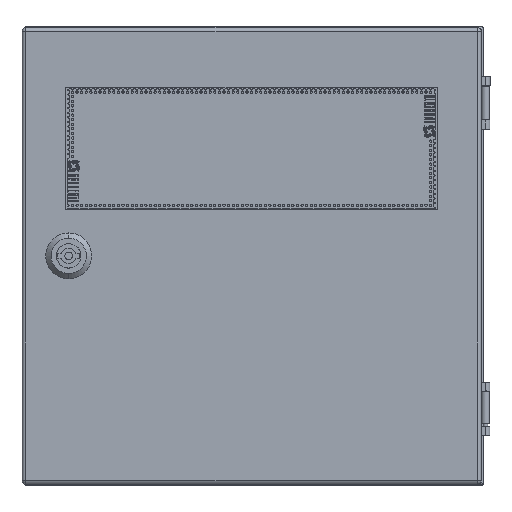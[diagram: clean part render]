
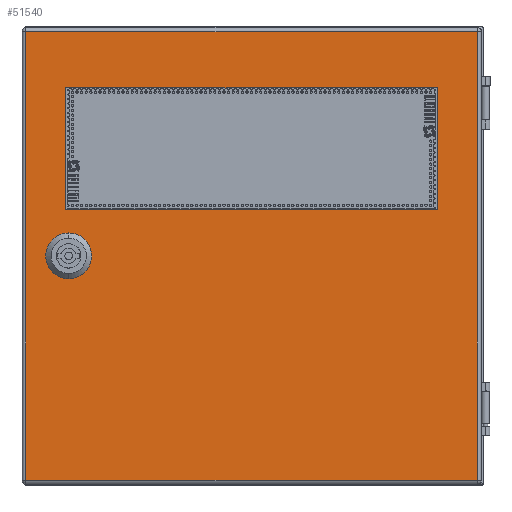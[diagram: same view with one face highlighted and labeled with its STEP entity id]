
A CAD part, top view. The second image highlights one B-rep face of the part: STEP entity #51540.
In plain terms, the highlighted planar face has unit normal (0, 0, 1).
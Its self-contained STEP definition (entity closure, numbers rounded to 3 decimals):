
#587 = ORIENTED_EDGE ( 'NONE', *, *, #27120, .T. ) ;
#588 = ORIENTED_EDGE ( 'NONE', *, *, #27124, .T. ) ;
#589 = ORIENTED_EDGE ( 'NONE', *, *, #27121, .T. ) ;
#590 = ORIENTED_EDGE ( 'NONE', *, *, #27122, .T. ) ;
#591 = ORIENTED_EDGE ( 'NONE', *, *, #27123, .T. ) ;
#592 = ORIENTED_EDGE ( 'NONE', *, *, #27125, .T. ) ;
#593 = ORIENTED_EDGE ( 'NONE', *, *, #27126, .T. ) ;
#594 = ORIENTED_EDGE ( 'NONE', *, *, #27127, .T. ) ;
#595 = ORIENTED_EDGE ( 'NONE', *, *, #27128, .T. ) ;
#596 = ORIENTED_EDGE ( 'NONE', *, *, #27132, .T. ) ;
#597 = ORIENTED_EDGE ( 'NONE', *, *, #27129, .T. ) ;
#598 = ORIENTED_EDGE ( 'NONE', *, *, #27130, .T. ) ;
#599 = ORIENTED_EDGE ( 'NONE', *, *, #27131, .F. ) ;
#600 = ORIENTED_EDGE ( 'NONE', *, *, #27135, .F. ) ;
#601 = ORIENTED_EDGE ( 'NONE', *, *, #27133, .F. ) ;
#603 = ORIENTED_EDGE ( 'NONE', *, *, #27134, .F. ) ;
#2718 = CARTESIAN_POINT ( 'NONE',  ( -119.5, 0., 14. ) ) ;
#2734 = LINE ( 'NONE', #2735, #66574 ) ;
#2735 = CARTESIAN_POINT ( 'NONE',  ( -150., 146.6, 14. ) ) ;
#2736 = DIRECTION ( 'NONE',  ( -1., 0., 0. ) ) ;
#2737 = LINE ( 'NONE', #2738, #66573 ) ;
#2738 = CARTESIAN_POINT ( 'NONE',  ( 147.6, 149., 14. ) ) ;
#2739 = DIRECTION ( 'NONE',  ( 0., 1., 0. ) ) ;
#2740 = LINE ( 'NONE', #2741, #66572 ) ;
#2741 = CARTESIAN_POINT ( 'NONE',  ( -147.6, -149., 14. ) ) ;
#2742 = DIRECTION ( 'NONE',  ( 0., -1., 0. ) ) ;
#2743 = LINE ( 'NONE', #2744, #66569 ) ;
#2744 = CARTESIAN_POINT ( 'NONE',  ( -129.6, 5.499, 14. ) ) ;
#2745 = DIRECTION ( 'NONE',  ( 0., 1., 0. ) ) ;
#2746 = LINE ( 'NONE', #2747, #66565 ) ;
#2747 = CARTESIAN_POINT ( 'NONE',  ( 150., -146.6, 14. ) ) ;
#2748 = DIRECTION ( 'NONE',  ( 1., 0., 0. ) ) ;
#2749 = DIRECTION ( 'NONE',  ( 0., 0., -1. ) ) ;
#2750 = DIRECTION ( 'NONE',  ( -1., 0., 0. ) ) ;
#2751 = CARTESIAN_POINT ( 'NONE',  ( -119.5, 0., 14. ) ) ;
#2752 = LINE ( 'NONE', #2753, #66564 ) ;
#2753 = CARTESIAN_POINT ( 'NONE',  ( -124.999, -10.1, 14. ) ) ;
#2754 = DIRECTION ( 'NONE',  ( -1., 0., 0. ) ) ;
#2755 = DIRECTION ( 'NONE',  ( 0., 0., -1. ) ) ;
#2756 = DIRECTION ( 'NONE',  ( 1., 0., 0. ) ) ;
#2757 = CARTESIAN_POINT ( 'NONE',  ( -119.5, 0., 14. ) ) ;
#2758 = LINE ( 'NONE', #2759, #66563 ) ;
#2759 = CARTESIAN_POINT ( 'NONE',  ( -109.4, 5.499, 14. ) ) ;
#2760 = DIRECTION ( 'NONE',  ( 0., -1., 0. ) ) ;
#2761 = DIRECTION ( 'NONE',  ( 0., 0., -1. ) ) ;
#2762 = DIRECTION ( 'NONE',  ( -1., 0., 0. ) ) ;
#2763 = CARTESIAN_POINT ( 'NONE',  ( -119.5, 0., 14. ) ) ;
#2764 = DIRECTION ( 'NONE',  ( 0., 0., -1. ) ) ;
#2765 = DIRECTION ( 'NONE',  ( 1., 0., 0. ) ) ;
#2767 = LINE ( 'NONE', #2768, #66561 ) ;
#2768 = CARTESIAN_POINT ( 'NONE',  ( -121.5, 110., 14. ) ) ;
#2769 = DIRECTION ( 'NONE',  ( -1., 0., 0. ) ) ;
#2770 = LINE ( 'NONE', #2771, #66557 ) ;
#2771 = CARTESIAN_POINT ( 'NONE',  ( -124.999, 10.1, 14. ) ) ;
#2772 = DIRECTION ( 'NONE',  ( 1., 0., 0. ) ) ;
#2773 = LINE ( 'NONE', #2774, #66555 ) ;
#2774 = CARTESIAN_POINT ( 'NONE',  ( -121.5, 30., 14. ) ) ;
#2775 = DIRECTION ( 'NONE',  ( 0., -1., 0. ) ) ;
#2776 = LINE ( 'NONE', #2777, #66551 ) ;
#2777 = CARTESIAN_POINT ( 'NONE',  ( 121.5, 30., 14. ) ) ;
#2778 = DIRECTION ( 'NONE',  ( 0., 1., 0. ) ) ;
#2779 = LINE ( 'NONE', #2780, #66550 ) ;
#2780 = CARTESIAN_POINT ( 'NONE',  ( -121.5, 30., 14. ) ) ;
#2781 = DIRECTION ( 'NONE',  ( 1., 0., 0. ) ) ;
#5044 = CARTESIAN_POINT ( 'NONE',  ( 121.5, 30., 14. ) ) ;
#5045 = CARTESIAN_POINT ( 'NONE',  ( 121.5, 110., 14. ) ) ;
#5046 = CARTESIAN_POINT ( 'NONE',  ( -121.5, 30., 14. ) ) ;
#5047 = CARTESIAN_POINT ( 'NONE',  ( -121.5, 110., 14. ) ) ;
#5048 = CARTESIAN_POINT ( 'NONE',  ( -129.6, 5.499, 14. ) ) ;
#5049 = CARTESIAN_POINT ( 'NONE',  ( -124.999, 10.1, 14. ) ) ;
#5050 = CARTESIAN_POINT ( 'NONE',  ( -114.001, 10.1, 14. ) ) ;
#5051 = CARTESIAN_POINT ( 'NONE',  ( -109.4, 5.499, 14. ) ) ;
#5052 = CARTESIAN_POINT ( 'NONE',  ( -109.4, -5.499, 14. ) ) ;
#5053 = CARTESIAN_POINT ( 'NONE',  ( -114.001, -10.1, 14. ) ) ;
#5054 = CARTESIAN_POINT ( 'NONE',  ( -124.999, -10.1, 14. ) ) ;
#5055 = CARTESIAN_POINT ( 'NONE',  ( -129.6, -5.499, 14. ) ) ;
#5056 = CARTESIAN_POINT ( 'NONE',  ( -147.6, 146.6, 14. ) ) ;
#5057 = CARTESIAN_POINT ( 'NONE',  ( -147.6, -146.6, 14. ) ) ;
#5058 = CARTESIAN_POINT ( 'NONE',  ( 147.6, -146.6, 14. ) ) ;
#5059 = CARTESIAN_POINT ( 'NONE',  ( 147.6, 146.6, 14. ) ) ;
#7307 = PLANE ( 'NONE',  #11157 ) ;
#7309 = CARTESIAN_POINT ( 'NONE',  ( 0., 0., 14. ) ) ;
#7311 = DIRECTION ( 'NONE',  ( 0., 0., 1. ) ) ;
#7313 = DIRECTION ( 'NONE',  ( 1., 0., 0. ) ) ;
#11145 = FACE_BOUND ( 'NONE', #25918, .T. ) ;
#11157 = AXIS2_PLACEMENT_3D ( 'NONE', #7309, #7311, #7313 ) ;
#11159 = FACE_BOUND ( 'NONE', #25917, .T. ) ;
#11161 = FACE_OUTER_BOUND ( 'NONE', #25915, .T. ) ;
#25915 = EDGE_LOOP ( 'NONE', ( #590, #588, #589, #587 ) ) ;
#25917 = EDGE_LOOP ( 'NONE', ( #598, #596, #597, #595, #594, #593, #592, #591 ) ) ;
#25918 = EDGE_LOOP ( 'NONE', ( #603, #600, #601, #599 ) ) ;
#27120 = EDGE_CURVE ( 'NONE', #34039, #34036, #2734, .T. ) ;
#27121 = EDGE_CURVE ( 'NONE', #34038, #34039, #2737, .T. ) ;
#27122 = EDGE_CURVE ( 'NONE', #34036, #34037, #2740, .T. ) ;
#27123 = EDGE_CURVE ( 'NONE', #34035, #34028, #2743, .T. ) ;
#27124 = EDGE_CURVE ( 'NONE', #34037, #34038, #2746, .T. ) ;
#27125 = EDGE_CURVE ( 'NONE', #34034, #34035, #54287, .T. ) ;
#27126 = EDGE_CURVE ( 'NONE', #34033, #34034, #2752, .T. ) ;
#27127 = EDGE_CURVE ( 'NONE', #34032, #34033, #54288, .T. ) ;
#27128 = EDGE_CURVE ( 'NONE', #34031, #34032, #2758, .T. ) ;
#27129 = EDGE_CURVE ( 'NONE', #34030, #34031, #54289, .T. ) ;
#27130 = EDGE_CURVE ( 'NONE', #34028, #34029, #54290, .T. ) ;
#27131 = EDGE_CURVE ( 'NONE', #34025, #34027, #2767, .T. ) ;
#27132 = EDGE_CURVE ( 'NONE', #34029, #34030, #2770, .T. ) ;
#27133 = EDGE_CURVE ( 'NONE', #34027, #34026, #2773, .T. ) ;
#27134 = EDGE_CURVE ( 'NONE', #34024, #34025, #2776, .T. ) ;
#27135 = EDGE_CURVE ( 'NONE', #34026, #34024, #2779, .T. ) ;
#34024 = VERTEX_POINT ( 'NONE', #5044 ) ;
#34025 = VERTEX_POINT ( 'NONE', #5045 ) ;
#34026 = VERTEX_POINT ( 'NONE', #5046 ) ;
#34027 = VERTEX_POINT ( 'NONE', #5047 ) ;
#34028 = VERTEX_POINT ( 'NONE', #5048 ) ;
#34029 = VERTEX_POINT ( 'NONE', #5049 ) ;
#34030 = VERTEX_POINT ( 'NONE', #5050 ) ;
#34031 = VERTEX_POINT ( 'NONE', #5051 ) ;
#34032 = VERTEX_POINT ( 'NONE', #5052 ) ;
#34033 = VERTEX_POINT ( 'NONE', #5053 ) ;
#34034 = VERTEX_POINT ( 'NONE', #5054 ) ;
#34035 = VERTEX_POINT ( 'NONE', #5055 ) ;
#34036 = VERTEX_POINT ( 'NONE', #5056 ) ;
#34037 = VERTEX_POINT ( 'NONE', #5057 ) ;
#34038 = VERTEX_POINT ( 'NONE', #5058 ) ;
#34039 = VERTEX_POINT ( 'NONE', #5059 ) ;
#51540 = ADVANCED_FACE ( 'NONE', ( #11145, #11159, #11161 ), #7307, .T. ) ;
#54287 = CIRCLE ( 'NONE', #66571, 11.5 ) ;
#54288 = CIRCLE ( 'NONE', #66589, 11.5 ) ;
#54289 = CIRCLE ( 'NONE', #66586, 11.5 ) ;
#54290 = CIRCLE ( 'NONE', #66566, 11.5 ) ;
#66550 = VECTOR ( 'NONE', #2781, 1000. ) ;
#66551 = VECTOR ( 'NONE', #2778, 1000. ) ;
#66555 = VECTOR ( 'NONE', #2775, 1000. ) ;
#66557 = VECTOR ( 'NONE', #2772, 1000. ) ;
#66561 = VECTOR ( 'NONE', #2769, 1000. ) ;
#66563 = VECTOR ( 'NONE', #2760, 1000. ) ;
#66564 = VECTOR ( 'NONE', #2754, 1000. ) ;
#66565 = VECTOR ( 'NONE', #2748, 1000. ) ;
#66566 = AXIS2_PLACEMENT_3D ( 'NONE', #2763, #2764, #2765 ) ;
#66569 = VECTOR ( 'NONE', #2745, 1000. ) ;
#66571 = AXIS2_PLACEMENT_3D ( 'NONE', #2718, #2749, #2750 ) ;
#66572 = VECTOR ( 'NONE', #2742, 1000. ) ;
#66573 = VECTOR ( 'NONE', #2739, 1000. ) ;
#66574 = VECTOR ( 'NONE', #2736, 1000. ) ;
#66586 = AXIS2_PLACEMENT_3D ( 'NONE', #2757, #2761, #2762 ) ;
#66589 = AXIS2_PLACEMENT_3D ( 'NONE', #2751, #2755, #2756 ) ;
